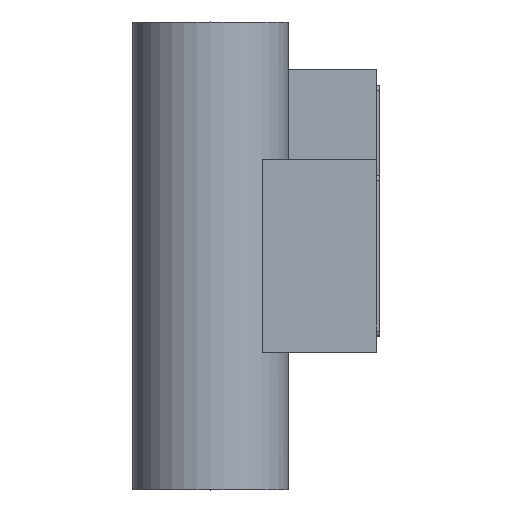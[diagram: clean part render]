
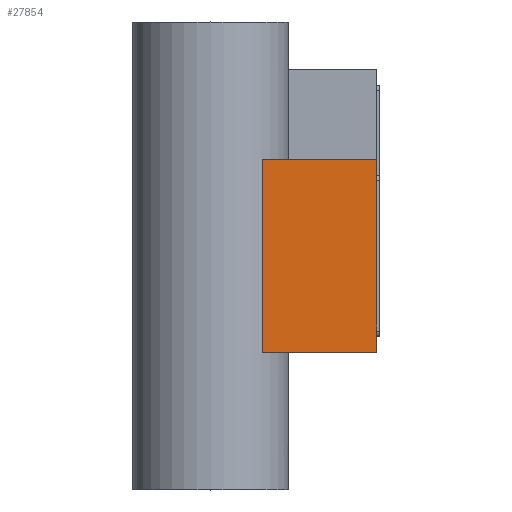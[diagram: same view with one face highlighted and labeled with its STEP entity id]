
A CAD part, top view. The second image highlights one B-rep face of the part: STEP entity #27854.
In plain terms, the highlighted planar face has unit normal (0, 0, 1) as drawn and (0, -1, 0) by its records, which use the part's own axes.
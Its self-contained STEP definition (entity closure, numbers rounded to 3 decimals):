
#24525=DIRECTION('',(0.,0.,-1.));
#24526=VECTOR('',#24525,43.939);
#24527=CARTESIAN_POINT('',(-37.,-23.,32.339));
#24528=LINE('',#24527,#24526);
#24595=DIRECTION('',(0.,0.,-1.));
#24596=VECTOR('',#24595,43.939);
#24597=CARTESIAN_POINT('',(37.,-23.,32.339));
#24598=LINE('',#24597,#24596);
#24599=DIRECTION('',(-1.,0.,0.));
#24600=VECTOR('',#24599,74.);
#24601=CARTESIAN_POINT('',(37.,-23.,-11.6));
#24602=LINE('',#24601,#24600);
#24607=DIRECTION('',(-1.,0.,0.));
#24608=VECTOR('',#24607,74.);
#24609=CARTESIAN_POINT('',(37.,-23.,32.339));
#24610=LINE('',#24609,#24608);
#27100=CARTESIAN_POINT('',(-37.,-23.,32.339));
#27101=VERTEX_POINT('',#27100);
#27102=CARTESIAN_POINT('',(-37.,-23.,-11.6));
#27103=VERTEX_POINT('',#27102);
#27112=CARTESIAN_POINT('',(37.,-23.,32.339));
#27113=VERTEX_POINT('',#27112);
#27116=CARTESIAN_POINT('',(37.,-23.,-11.6));
#27117=VERTEX_POINT('',#27116);
#27841=CARTESIAN_POINT('',(-37.,-23.,0.));
#27842=DIRECTION('',(0.,-1.,0.));
#27843=DIRECTION('',(1.,0.,0.));
#27844=AXIS2_PLACEMENT_3D('',#27841,#27842,#27843);
#27845=PLANE('',#27844);
#27847=ORIENTED_EDGE('',*,*,#27846,.F.);
#27849=ORIENTED_EDGE('',*,*,#27848,.T.);
#27850=ORIENTED_EDGE('',*,*,#27815,.T.);
#27851=ORIENTED_EDGE('',*,*,#27765,.F.);
#27852=EDGE_LOOP('',(#27847,#27849,#27850,#27851));
#27853=FACE_OUTER_BOUND('',#27852,.F.);
#27854=ADVANCED_FACE('',(#27853),#27845,.T.);
#27765=EDGE_CURVE('',#27101,#27103,#24528,.T.);
#27815=EDGE_CURVE('',#27117,#27103,#24602,.T.);
#27846=EDGE_CURVE('',#27113,#27101,#24610,.T.);
#27848=EDGE_CURVE('',#27113,#27117,#24598,.T.);
